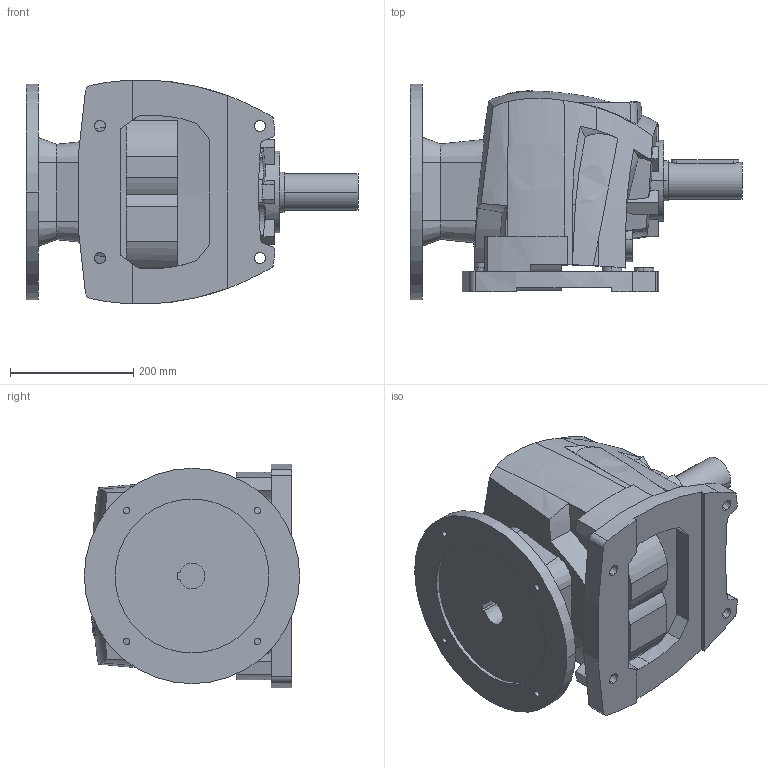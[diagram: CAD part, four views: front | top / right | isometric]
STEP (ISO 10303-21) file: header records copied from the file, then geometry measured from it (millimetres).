
FILE_DESCRIPTION((''),'2;1');
FILE_NAME('R50_SW_PAM160_D2','2013-12-21T',('Luca'),(''),'PRO/ENGINEER BY PARAMETRIC TECHNOLOGY CORPORATION, 2008230','PRO/ENGINEER BY PARAMETRIC TECHNOLOGY CORPORATION, 2008230','');
FILE_SCHEMA(('CONFIG_CONTROL_DESIGN'));
Length unit declared in the file: millimetre
Products named in the file (1): R50_SW_PAM160_D2
Bounding box: 539.5 x 350 x 363.44 mm (x, y, z)
Volume: 26824826.9 mm3; surface area: 938399.8 mm2
Topology: 1 solids, 1 shells, 435 faces, 1246 edges, 841 vertices
Faces by surface type: plane 179, cylinder 141, bspline 95, cone 13, torus 7
Entity records: 25731 total; most frequent: CARTESIAN_POINT 14965, ORIENTED_EDGE 2488, DIRECTION 1850, EDGE_CURVE 1244, VERTEX_POINT 841, AXIS2_PLACEMENT_3D 642, VECTOR 566, LINE 566
